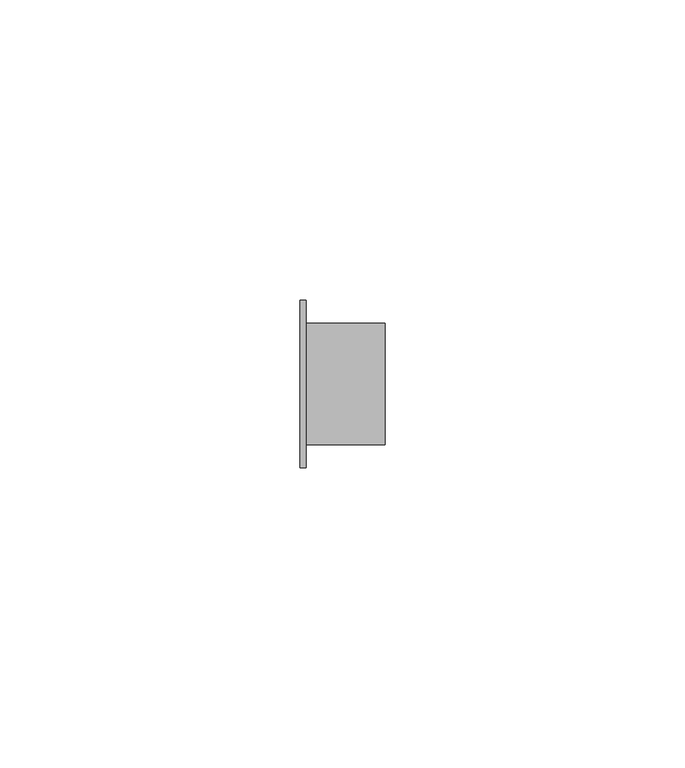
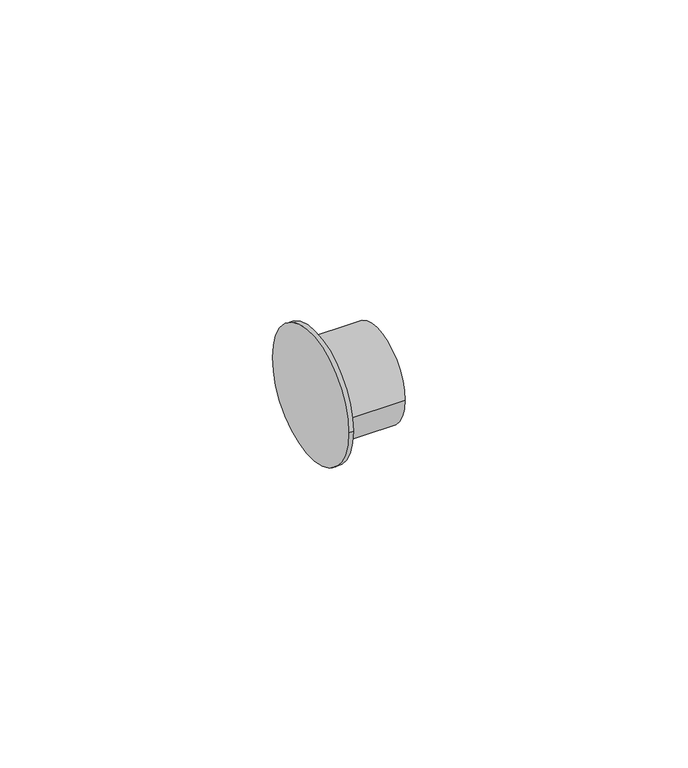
"""IFC4 building model written with IfcOpenShell, lengths in millimetres: pipe fitting geometry, Bucha de redução reta - Soldada - CU : Padrão."""

from ifc_helpers import new_model, si_unit, frame, origin, place, context, project, spatial, circle_curve, source, transform, mapped, element, save
from ifc_brep_helpers import plane_surface, cylinder_surface, advanced_brep


def pipe_fitting_547f58c8(model_context):
    return source(origin(), model_context, "Body", "AdvancedBrep", [
        advanced_brep(
        [(0.0, -13.97, 0.0), (0.0, 13.97, 0.0), (1.0, -13.97, 0.0), (1.0, 13.97, 0.0), (1.0, -10.1155, 0.0), (1.0, 10.1155, 0.0), (14.1535, -10.1155, 0.0), (14.1535, 10.1155, 0.0)],
        [
            (0, 1, circle_curve(frame((0.0, 0.0, 0.0), z_axis=(-1.0, 0.0, 0.0), x_axis=(0.0, 1.0, 0.0)), 13.97)),
            (1, 0, circle_curve(frame((0.0, 0.0, 0.0), z_axis=(-1.0, 0.0, 0.0), x_axis=(0.0, 1.0, 0.0)), 13.97)),
            (2, 3, circle_curve(frame((1.0, 0.0, 0.0), z_axis=(1.0, 0.0, 0.0), x_axis=(0.0, 1.0, 0.0)), 13.97)),
            (3, 2, circle_curve(frame((1.0, 0.0, 0.0), z_axis=(1.0, 0.0, 0.0), x_axis=(0.0, 1.0, 0.0)), 13.97)),
            (4, 5, circle_curve(frame((1.0, 0.0, 0.0), z_axis=(-1.0, 0.0, 0.0), x_axis=(0.0, 1.0, 0.0)), 10.1155)),
            (5, 4, circle_curve(frame((1.0, 0.0, 0.0), z_axis=(-1.0, 0.0, 0.0), x_axis=(0.0, 1.0, 0.0)), 10.1155)),
            (0, 2),
            (3, 1),
            (6, 7, circle_curve(frame((14.1535, 0.0, 0.0), z_axis=(1.0, 0.0, 0.0), x_axis=(0.0, 1.0, 0.0)), 10.1155)),
            (7, 6, circle_curve(frame((14.1535, 0.0, 0.0), z_axis=(1.0, 0.0, 0.0), x_axis=(0.0, 1.0, 0.0)), 10.1155)),
            (7, 5),
            (4, 6),
        ],
        [
            plane_surface(frame((0.0, 0.0, 0.0), z_axis=(-1.0, 0.0, 0.0), x_axis=(0.0, 0.0, 1.0))),
            plane_surface(frame((1.0, 0.0, 0.0), z_axis=(1.0, 0.0, 0.0), x_axis=(0.0, 0.0, 1.0))),
            cylinder_surface(frame((0.0, 0.0, 0.0), z_axis=(-1.0, 0.0, 0.0), x_axis=(0.0, 1.0, 0.0)), 13.97),
            plane_surface(frame((14.1535, 0.0, 0.0), z_axis=(1.0, 0.0, 0.0), x_axis=(0.0, 0.0, 1.0))),
            cylinder_surface(frame((1.0, 0.0, 0.0), z_axis=(-1.0, 0.0, 0.0), x_axis=(0.0, 1.0, 0.0)), 10.1155),
        ],
        [
            (0, [[1, 2]]),
            (1, [[3, 4], [5, 6]]),
            (2, [[-1, 7, -4, 8]]),
            (2, [[-2, -8, -3, -7]]),
            (3, [[9, 10]]),
            (4, [[-10, 11, -5, 12]]),
            (4, [[-9, -12, -6, -11]]),
        ],
    ),
    ])


if __name__ == "__main__":
    model = new_model("IFC4")
    model_context = context("Model", 3, world=origin())
    ifc_project = project(units=[si_unit("LENGTHUNIT", "METRE", prefix="MILLI")], contexts=[model_context])
    site = spatial("IfcSite", under=ifc_project)
    building = spatial("IfcBuilding", under=site)
    placement = place(None, origin())
    pipe_fitting_shape = pipe_fitting_547f58c8(model_context)
    element("IfcPipeFitting", 1, ObjectType="Bucha de redução reta - Soldada - CU : Padrão", at=placement, inside=building, context=model_context, shape_type="MappedRepresentation", body=[
        mapped(pipe_fitting_shape, transform((0.0, 0.0, 0.0), x_axis=(1.0, 0.0, 0.0), y_axis=(0.0, 1.0, 0.0), z_axis=(0.0, 0.0, 1.0))),
    ])
    save(model, "model.ifc")
